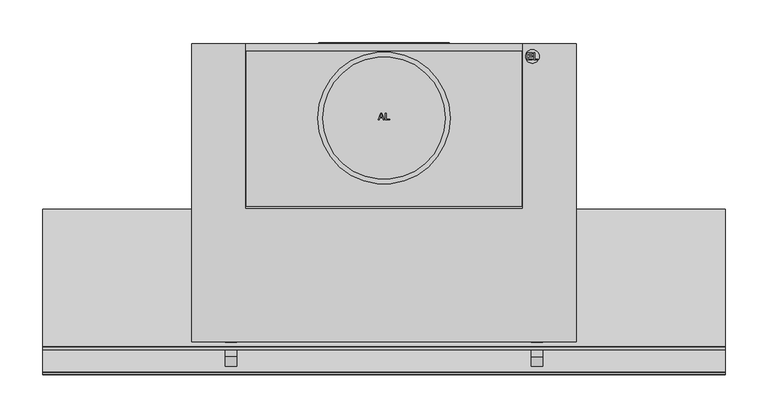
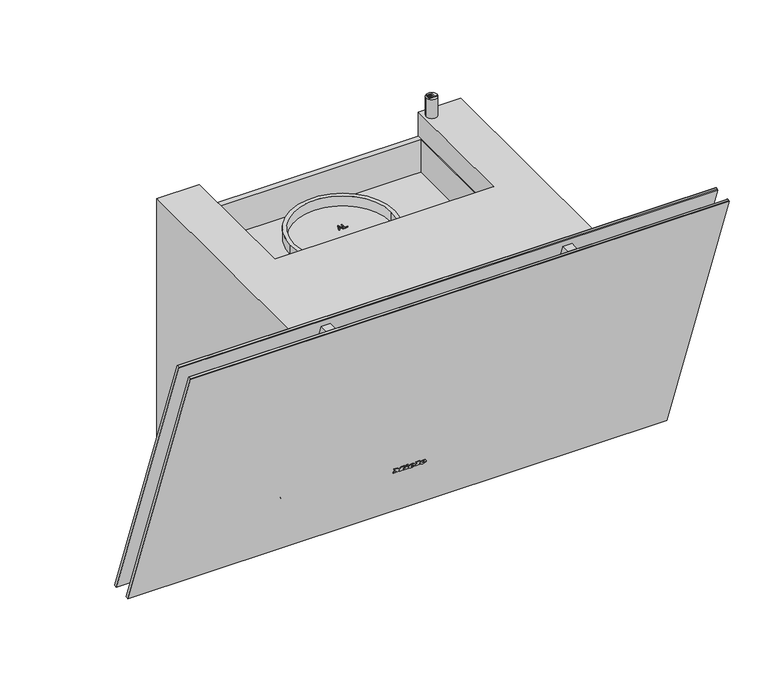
"""IFC4 building model written with IfcOpenShell, lengths in millimetres: proxy geometry, 12559390_NER_DAH2860_OBSW : 28H2860B_NER_12559390_DAH2860_OBSW."""

import ifcopenshell
import ifcopenshell.guid

model = None  # the IFC model being written
_history = None  # IfcOwnerHistory: only IFC2X3 demands one
_inside = {}  # id of a spatial element -> (the spatial element, [elements in it])
_under = {}  # id of a project, library or spatial element -> (it, [spatial elements below it])
_declared = {}  # id of a project -> (the project, [libraries it declares])
_typed = {}  # id of a type object -> (the type object, [elements of that type])
_made_of = {}  # id of a material, layer set ... -> (it, [elements and type objects made of it])


def new_model(schema):
    """Start an empty IFC model of exactly this schema.

    Asked for "IFC4X3", IfcOpenShell would pick the latest addendum, in which some entities
    have other attributes; the version numbers below select the first issue.
    IFC2X3 requires an IfcOwnerHistory on every rooted entity: one is made here for all.
    """
    global model, _history
    if schema == "IFC4X3":
        model = ifcopenshell.file(schema_version=(4, 3, 0, 0))
    else:
        model = ifcopenshell.file(schema=schema)
    _inside.clear()
    _under.clear()
    _declared.clear()
    _typed.clear()
    _made_of.clear()
    _history = None
    if model.schema == "IFC2X3":
        org = make("IfcOrganization", Name="unknown")
        user = make(
            "IfcPersonAndOrganization",
            ThePerson=make("IfcPerson", FamilyName="unknown"),
            TheOrganization=org,
        )
        app = make(
            "IfcApplication",
            ApplicationDeveloper=org,
            Version="unknown",
            ApplicationFullName="unknown",
            ApplicationIdentifier="unknown",
        )
        _history = make(
            "IfcOwnerHistory",
            OwningUser=user,
            OwningApplication=app,
            ChangeAction="ADDED",
            CreationDate=0,
        )
    return model


def make(cls, **values):
    """One entity of the class cls with the attributes given. An attribute that is None is left unset."""
    return model.create_entity(
        cls, **{name: value for name, value in values.items() if value is not None}
    )


def rooted(cls, **values):
    """An entity with a GlobalId (a new one), such as an element, a storey or a relation."""
    return make(cls, GlobalId=ifcopenshell.guid.new(), OwnerHistory=_history, **values)


def si_unit(unit_type, name, prefix=None):
    """IfcSIUnit, for example si_unit("LENGTHUNIT", "METRE", prefix="MILLI")."""
    return make("IfcSIUnit", UnitType=unit_type, Prefix=prefix, Name=name)


def assignment(units):
    """IfcUnitAssignment: the units of a project."""
    return None if units is None else make("IfcUnitAssignment", Units=units)


def point(xyz):
    """IfcCartesianPoint."""
    return None if xyz is None else make("IfcCartesianPoint", Coordinates=xyz)


def direction(xyz):
    """IfcDirection."""
    return None if xyz is None else make("IfcDirection", DirectionRatios=xyz)


def frame(location, z_axis=None, x_axis=None):
    """IfcAxis2Placement3D, a coordinate frame: its origin and axes. An axis left out is left unset."""
    return make(
        "IfcAxis2Placement3D",
        Location=point(location),
        Axis=direction(z_axis),
        RefDirection=direction(x_axis),
    )


def frame_2d(location, x_axis=None):
    """IfcAxis2Placement2D, a coordinate frame in the plane: its origin and x axis."""
    return make(
        "IfcAxis2Placement2D", Location=point(location), RefDirection=direction(x_axis)
    )


def origin():
    """The frame at (0, 0, 0) with its axes left unset."""
    return frame((0.0, 0.0, 0.0))


def origin_with_axes():
    """The frame at (0, 0, 0) with the z axis (0, 0, 1) and the x axis (1, 0, 0) written out."""
    return frame((0.0, 0.0, 0.0), z_axis=(0.0, 0.0, 1.0), x_axis=(1.0, 0.0, 0.0))


def place(relative_to, where):
    """IfcLocalPlacement: puts the frame where relative to a parent placement (None: the world)."""
    return make(
        "IfcLocalPlacement", PlacementRelTo=relative_to, RelativePlacement=where
    )


def context(
    kind, dimensions, precision=None, world=None, true_north=None, identifier=None
):
    """IfcGeometricRepresentationContext, for example the 3D "Model" context."""
    return make(
        "IfcGeometricRepresentationContext",
        ContextIdentifier=identifier,
        ContextType=kind,
        CoordinateSpaceDimension=dimensions,
        Precision=precision,
        WorldCoordinateSystem=world,
        TrueNorth=true_north,
    )


def project(units=None, contexts=None):
    """IfcProject with its units and contexts."""
    return rooted(
        "IfcProject",
        Name="project",
        RepresentationContexts=contexts,
        UnitsInContext=assignment(units),
    )


def spatial(cls, under=None, at=None, **own):
    """A site, building, storey or space (cls), placed at a placement, below another one or the project."""
    s = rooted(cls, ObjectPlacement=at, **own)
    if under is not None:
        _under.setdefault(under.id(), (under, []))[1].append(s)
    return s


def polyline(points):
    """IfcPolyline through the points."""
    return make("IfcPolyline", Points=[point(p) for p in points])


def circle_curve(where, radius):
    """IfcCircle in the frame where."""
    return make("IfcCircle", Position=where, Radius=radius)


def ellipse_curve(where, semi_axis1, semi_axis2):
    """IfcEllipse in the frame where."""
    return make(
        "IfcEllipse", Position=where, SemiAxis1=semi_axis1, SemiAxis2=semi_axis2
    )


def trimmed(basis, trim1, trim2, sense, master):
    """IfcTrimmedCurve: the piece of a basis curve between two trims."""
    return make(
        "IfcTrimmedCurve",
        BasisCurve=basis,
        Trim1=trim1,
        Trim2=trim2,
        SenseAgreement=sense,
        MasterRepresentation=master,
    )


def segment(curve, same_sense, transition):
    """IfcCompositeCurveSegment."""
    return make(
        "IfcCompositeCurveSegment",
        Transition=transition,
        SameSense=same_sense,
        ParentCurve=curve,
    )


def composite_curve(segments, self_intersect=None):
    """IfcCompositeCurve: segments joined end to end."""
    return make("IfcCompositeCurve", Segments=segments, SelfIntersect=self_intersect)


def outline(outer, holes=None, kind="AREA"):
    """IfcArbitraryClosedProfileDef: a profile drawn as a closed curve; with holes, ...WithVoids."""
    if holes is None:
        return make("IfcArbitraryClosedProfileDef", ProfileType=kind, OuterCurve=outer)
    return make(
        "IfcArbitraryProfileDefWithVoids",
        ProfileType=kind,
        OuterCurve=outer,
        InnerCurves=holes,
    )


def extrude(swept, where, along, depth):
    """IfcExtrudedAreaSolid: the profile swept, set in the frame where, extruded along a direction by depth."""
    return make(
        "IfcExtrudedAreaSolid",
        SweptArea=swept,
        Position=where,
        ExtrudedDirection=direction(along),
        Depth=depth,
    )


def faces_of(points, faces, orient=None, outer=None):
    """IfcFace entities. A face is a list of loops; a loop is a list of indices into points, from 0.

    orient and outer hold one flag for each loop. By default every Orientation is true, the
    first loop of a face is its IfcFaceOuterBound and the others are IfcFaceBound.
    """
    made = []
    for i, loops in enumerate(faces):
        bounds = []
        for j, loop in enumerate(loops):
            is_outer = j == 0 if outer is None else outer[i][j]
            bounds.append(
                make(
                    "IfcFaceOuterBound" if is_outer else "IfcFaceBound",
                    Bound=make("IfcPolyLoop", Polygon=[points[k] for k in loop]),
                    Orientation=True if orient is None else orient[i][j],
                )
            )
        made.append(make("IfcFace", Bounds=bounds))
    return made


def faceted_brep(points, faces, orient=None, outer=None, voids=None):
    """IfcFacetedBrep: a solid bounded by flat faces; with voids (closed shells), ...WithVoids."""
    shared = [point(p) for p in points]
    hull = make("IfcClosedShell", CfsFaces=faces_of(shared, faces, orient, outer))
    if voids is None:
        return make("IfcFacetedBrep", Outer=hull)
    return make(
        "IfcFacetedBrepWithVoids",
        Outer=hull,
        Voids=[
            make(cls, CfsFaces=faces_of(shared, fs, o, b)) for cls, fs, o, b in voids
        ],
    )


def shape(context_of_items, identifier, shape_type, items):
    """IfcShapeRepresentation: the items that make up one representation, for example the "Body"."""
    return make(
        "IfcShapeRepresentation",
        ContextOfItems=context_of_items,
        RepresentationIdentifier=identifier,
        RepresentationType=shape_type,
        Items=items,
    )


def source(mapping_origin, context_of_items, identifier, shape_type, items):
    """IfcRepresentationMap: a shape defined once, which mapped items show again and again."""
    return make(
        "IfcRepresentationMap",
        MappingOrigin=mapping_origin,
        MappedRepresentation=shape(context_of_items, identifier, shape_type, items),
    )


def transform(
    local_origin,
    x_axis=None,
    y_axis=None,
    z_axis=None,
    scale=None,
    scale2=None,
    scale3=None,
    uniform=True,
):
    """IfcCartesianTransformationOperator3D, or its non-uniform kind. x_axis, y_axis, z_axis: its Axis1, 2, 3."""
    if uniform:
        return make(
            "IfcCartesianTransformationOperator3D",
            Axis1=direction(x_axis),
            Axis2=direction(y_axis),
            LocalOrigin=point(local_origin),
            Scale=scale,
            Axis3=direction(z_axis),
        )
    return make(
        "IfcCartesianTransformationOperator3DnonUniform",
        Axis1=direction(x_axis),
        Axis2=direction(y_axis),
        LocalOrigin=point(local_origin),
        Scale=scale,
        Axis3=direction(z_axis),
        Scale2=scale2,
        Scale3=scale3,
    )


def mapped(mapping_source, mapping_target):
    """IfcMappedItem: shows the shape of a source again, moved by a transform."""
    return make(
        "IfcMappedItem", MappingSource=mapping_source, MappingTarget=mapping_target
    )


def made_of(thing, what):
    """Note that an element or type object is made of a material, layer set ...; save() writes the relation."""
    if what is not None:
        _made_of.setdefault(what.id(), (what, []))[1].append(thing)
    return thing


def element(
    cls,
    number,
    at=None,
    inside=None,
    cuts=None,
    type_object=None,
    material=None,
    context=None,
    identifier="Body",
    shape_type=None,
    held_by="IfcProductDefinitionShape",
    body=None,
    shapes=None,
    **own,
):
    """One element of the class cls, such as IfcWall. Its Tag is "e" and its number.

    at: its placement. inside: the storey or other place that contains it. cuts: it is an
    opening in that element (IfcRelVoidsElement). A single representation is given by context,
    identifier, shape_type and body (its items); several are given by shapes. held_by: the class
    of the entity that holds the representations. save() writes the other relations.
    """
    e = rooted(cls, Tag="e%d" % number, ObjectPlacement=at, **own)
    if body is not None:
        shapes = [shape(context, identifier, shape_type, body)]
    if shapes is not None:
        e.Representation = make(held_by, Representations=shapes)
    if inside is not None:
        _inside.setdefault(inside.id(), (inside, []))[1].append(e)
    if cuts is not None:
        rooted(
            "IfcRelVoidsElement", RelatingBuildingElement=cuts, RelatedOpeningElement=e
        )
    if type_object is not None:
        _typed.setdefault(type_object.id(), (type_object, []))[1].append(e)
    return made_of(e, material)


def aggregate(whole, parts):
    """IfcRelAggregates: a whole, such as a stair, and the parts it consists of."""
    return rooted("IfcRelAggregates", RelatingObject=whole, RelatedObjects=parts)


def save(model, path):
    """Write the relations noted so far, then the file.

    IfcRelAggregates (storeys below a building ...), IfcRelContainedInSpatialStructure (elements
    in a storey), IfcRelDefinesByType, IfcRelAssociatesMaterial and IfcRelDeclares: one each for
    every whole, place, type object, material and project.
    """
    for whole, parts in _under.values():
        aggregate(whole, parts)
    for where, things in _inside.values():
        rooted(
            "IfcRelContainedInSpatialStructure",
            RelatedElements=things,
            RelatingStructure=where,
        )
    for kind, things in _typed.values():
        rooted("IfcRelDefinesByType", RelatedObjects=things, RelatingType=kind)
    for what, things in _made_of.values():
        rooted("IfcRelAssociatesMaterial", RelatedObjects=things, RelatingMaterial=what)
    for by, libraries in _declared.values():
        rooted("IfcRelDeclares", RelatingContext=by, RelatedDefinitions=libraries)
    model.write(path)


def plane_surface(at):
    """IfcPlane: the flat surface through the origin of the frame at, square to its z axis."""
    return make("IfcPlane", Position=at)


def cylinder_surface(at, radius):
    """IfcCylindricalSurface: all points at the distance radius from the z axis of the frame at."""
    return make("IfcCylindricalSurface", Position=at, Radius=radius)


def revolved_surface(curve, axis_point, axis_direction):
    """IfcSurfaceOfRevolution: the curve turned about the line through axis_point along axis_direction."""
    return make(
        "IfcSurfaceOfRevolution",
        SweptCurve=make("IfcArbitraryOpenProfileDef", ProfileType="CURVE", Curve=curve),
        AxisPosition=make("IfcAxis1Placement", Location=point(axis_point), Axis=direction(axis_direction)),
    )


def extruded_surface(curve, direction_of_extrusion, depth):
    """IfcSurfaceOfLinearExtrusion: the curve pushed along a direction by depth."""
    return make(
        "IfcSurfaceOfLinearExtrusion",
        SweptCurve=make("IfcArbitraryOpenProfileDef", ProfileType="CURVE", Curve=curve),
        ExtrudedDirection=direction(direction_of_extrusion),
        Depth=depth,
    )


def advanced_brep(points, edges, surfaces, faces):
    """IfcAdvancedBrep: a solid bounded by faces that lie on surfaces and meet in shared edges.

    An edge is (start, end): straight between two places in points (the first is 0);
    or (start, end, curve); or (start, end, curve, False) where it runs against its curve.
    A face is (place in surfaces, loops), or (place, loops, False) where it looks against
    its surface's normal. A loop lists edges by number (the first is 1), with a minus sign
    where the edge is run from its end to its start. The first loop is the outer one.
    """
    corners = [point(p) for p in points]
    vertices = [make("IfcVertexPoint", VertexGeometry=c) for c in corners]
    made = []
    for start, end, *more in edges:
        made.append(
            make(
                "IfcEdgeCurve",
                EdgeStart=vertices[start],
                EdgeEnd=vertices[end],
                EdgeGeometry=more[0] if more else make("IfcPolyline", Points=[corners[start], corners[end]]),
                SameSense=more[1] if len(more) > 1 else True,
            )
        )
    hull = []
    for where, loops, *sense in faces:
        bounds = []
        for j, loop in enumerate(loops):
            ring = [make("IfcOrientedEdge", EdgeElement=made[abs(k) - 1], Orientation=k > 0) for k in loop]
            bounds.append(
                make(
                    "IfcFaceOuterBound" if j == 0 else "IfcFaceBound",
                    Bound=make("IfcEdgeLoop", EdgeList=ring),
                    Orientation=True,
                )
            )
        hull.append(make("IfcAdvancedFace", Bounds=bounds, FaceSurface=surfaces[where], SameSense=sense[0] if sense else True))
    return make("IfcAdvancedBrep", Outer=make("IfcClosedShell", CfsFaces=hull))


def specialty_equipment_d95b39ff(model_context):
    return source(origin(), model_context, "Body", "SolidModel", [
        extrude(outline(polyline([(0.0, 0.0), (0.968, 0.0), (0.968, 5.352), (0.0, 5.352), (0.0, 6.696), (3.52, 6.696), (3.52, 5.352), (2.56, 5.352), (2.56, 1.9488753), (6.136, 6.696), (9.728, 1.8807777), (9.728, 5.352), (8.744, 5.352), (8.744, 6.696), (15.128, 6.696), (15.128, 5.352), (14.112, 5.352), (14.112, 0.0), (15.128, 0.0), (15.128, -1.304), (10.256, -1.304), (7.92, 1.696), (5.576, -1.304), (0.0, -1.304), (0.0, 0.0)])), frame((-24.271984, -261.1380975, 82.2921818), z_axis=(0.0, 0.9396926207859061, 0.34202014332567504), x_axis=(1.0, 0.0, 0.0)), (0.0, 0.0, 1.0), 1.0),
        extrude(outline(polyline([(0.0, 0.0), (0.96, 0.0), (0.96, 5.352), (0.0, 5.352), (0.0, 6.696), (6.488, 6.696), (6.488, 5.352), (5.504, 5.352), (5.504, -1.304), (0.0, -1.304), (0.0, 0.0)])), frame((8.192016, -261.1380975, 82.2921818), z_axis=(0.0, 0.9396926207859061, 0.34202014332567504), x_axis=(1.0, 0.0, 0.0)), (0.0, 0.0, 1.0), 1.0),
        extrude(outline(polyline([(0.0, 0.0), (1.4315306, 0.0), (1.4390414, -2.9920869), (0.0109086, -2.9993294), (0.0, 0.0)])), frame((-6.351984, -261.4226582, 83.074006), z_axis=(0.0, 0.9396926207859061, 0.342020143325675), x_axis=(0.42472021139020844, 0.30963927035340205, -0.8507269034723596)), (0.0, 0.0, 1.0), 1.0),
        extrude(outline(polyline([(0.4933907, 2.4141097), (1.7898156, 3.022309), (2.1941493, 2.1604399), (5.1636141, 3.5535222), (4.7592805, 4.4153913), (5.9760369, 4.9862153), (8.6568708, -0.728194), (7.4401145, -1.299018), (7.0459741, -0.4588767), (2.7800843, -2.4601583), (0.4933907, 2.4141097)])), frame((-6.351984, -261.4226582, 83.074006), z_axis=(0.0, 0.9396926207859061, 0.342020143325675), x_axis=(0.42472021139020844, 0.30963927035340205, -0.8507269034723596)), (0.0, 0.0, 1.0), 1.0),
        advanced_brep(
        [(2.392016, -259.4964008, 77.7816572), (2.392016, -259.7727531, 78.5409288), (7.744016, -259.7727531, 78.5409288), (-1.567984, -259.7727531, 78.5409288), (0.632016, -258.8479306, 76.0), (7.608016, -259.4964008, 77.7816572), (5.192016, -259.4964008, 77.7816572), (3.288016, -259.1899507, 76.9396926), (2.392016, -260.1229817, 79.5031741), (2.392016, -260.4212233, 80.3225861), (3.760016, -260.4212233, 80.3225861), (3.760016, -260.1229817, 79.5031741), (2.392016, -258.5567082, 78.1236774), (3.288016, -258.2502581, 77.2817128), (5.192016, -258.5567082, 78.1236774), (7.608016, -258.5567082, 78.1236774), (0.632016, -257.908238, 76.3420201), (-1.567984, -258.8330604, 78.882949), (7.744016, -258.8330604, 78.882949), (2.392016, -258.8330604, 78.882949), (2.392016, -259.1832891, 79.8451942), (3.760016, -259.1832891, 79.8451942), (3.760016, -259.4815306, 80.6646062), (2.392016, -259.4815306, 80.6646062)],
        [
            (0, 1),
            (1, 2),
            (2, 3, ellipse_curve(frame((3.088016, -259.7727531, 78.5409288), z_axis=(0.0, -0.9396926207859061, -0.34202014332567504), x_axis=(-1.0, 0.0, 0.0)), 4.656, 3.848)),
            (3, 4, circle_curve(frame((1.5280596, -259.8657825, 78.7965252), z_axis=(0.0, -0.9396926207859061, -0.34202014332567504), x_axis=(0.0, 0.34202014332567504, -0.9396926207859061)), 3.1079688)),
            (4, 5, circle_curve(frame((2.9948096, -260.5881291, 80.7811561), z_axis=(0.0, -0.9396926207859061, -0.34202014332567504), x_axis=(0.0, 0.34202014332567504, -0.9396926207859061)), 5.6098607)),
            (5, 6),
            (6, 7, circle_curve(frame((3.6790748, -259.7508638, 78.4807885), z_axis=(0.0, 0.9396926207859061, 0.34202014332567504), x_axis=(0.0, 0.34202014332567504, -0.9396926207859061)), 1.6859795)),
            (7, 0, circle_curve(frame((3.288016, -259.4964008, 77.7816572), z_axis=(0.0, 0.9396926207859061, 0.34202014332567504), x_axis=(0.0, 0.34202014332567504, -0.9396926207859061)), 0.896)),
            (8, 9),
            (9, 10, circle_curve(frame((3.076016, -260.4212233, 80.3225861), z_axis=(0.0, 0.9396926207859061, 0.34202014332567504), x_axis=(0.0, 0.34202014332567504, -0.9396926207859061)), 0.684)),
            (10, 11),
            (11, 8),
            (12, 13, circle_curve(frame((3.288016, -258.5567082, 78.1236774), z_axis=(0.0, -0.9396926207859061, -0.34202014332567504), x_axis=(0.0, 0.34202014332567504, -0.9396926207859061)), 0.896)),
            (13, 14, circle_curve(frame((3.6790748, -258.8111712, 78.8228087), z_axis=(0.0, -0.9396926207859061, -0.34202014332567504), x_axis=(0.0, 0.34202014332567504, -0.9396926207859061)), 1.6859795)),
            (14, 15),
            (15, 16, circle_curve(frame((2.9948096, -259.6484365, 81.1231762), z_axis=(0.0, 0.9396926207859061, 0.34202014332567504), x_axis=(0.0, 0.34202014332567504, -0.9396926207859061)), 5.6098607)),
            (16, 17, circle_curve(frame((1.5280596, -258.9260899, 79.1385454), z_axis=(0.0, 0.9396926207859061, 0.34202014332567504), x_axis=(0.0, 0.34202014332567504, -0.9396926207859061)), 3.1079688)),
            (17, 18, ellipse_curve(frame((3.088016, -258.8330604, 78.882949), z_axis=(0.0, 0.9396926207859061, 0.34202014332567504), x_axis=(-1.0, 0.0, 0.0)), 4.656, 3.848)),
            (18, 19),
            (19, 12),
            (20, 21),
            (21, 22),
            (22, 23, circle_curve(frame((3.076016, -259.4815306, 80.6646062), z_axis=(0.0, -0.9396926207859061, -0.34202014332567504), x_axis=(0.0, 0.34202014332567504, -0.9396926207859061)), 0.684)),
            (23, 20),
            (0, 12),
            (19, 1),
            (18, 2),
            (5, 15),
            (14, 6),
            (17, 3),
            (13, 7),
            (16, 4),
            (8, 20),
            (23, 9),
            (22, 10),
            (21, 11),
        ],
        [
            plane_surface(frame((2.392016, -259.7727531, 78.5409288), z_axis=(0.0, -0.9396926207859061, -0.34202014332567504), x_axis=(0.0, -0.34202014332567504, 0.9396926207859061))),
            plane_surface(frame((2.392016, -258.8330604, 78.882949), z_axis=(0.0, 0.9396926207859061, 0.34202014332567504), x_axis=(0.0, 0.34202014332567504, -0.9396926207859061))),
            plane_surface(frame((2.392016, -259.4964008, 77.7816572), z_axis=(1.0, 0.0, 0.0), x_axis=(0.0, 0.9396926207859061, 0.34202014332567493))),
            plane_surface(frame((2.392016, -259.7727531, 78.5409288), z_axis=(0.0, 0.34202014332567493, -0.9396926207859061), x_axis=(0.0, 0.9396926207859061, 0.34202014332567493))),
            plane_surface(frame((7.608016, -259.4964008, 77.7816572), z_axis=(0.0, -0.34202014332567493, 0.9396926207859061), x_axis=(0.0, 0.9396926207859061, 0.34202014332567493))),
            extruded_surface(trimmed(ellipse_curve(frame((3.088016, -257.8933678, 79.2249691), z_axis=(0.0, -0.9396926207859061, -0.34202014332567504), x_axis=(-1.0, 0.0, 0.0)), 4.656, 3.848), [point((7.744016, -257.8933678, 79.2249691))], [point((-1.567984, -257.8933678, 79.2249691))], True, "CARTESIAN"), (0.0, -0.9396926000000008, -0.34202009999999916), 0.9999999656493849),
            revolved_surface(polyline([(3.6790748, -258.2345321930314, 77.23850622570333), (3.6790748, -259.1742248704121, 76.89648606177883)]), (3.6790748, -258.8111712, 78.8228087), (0.0, 0.9396926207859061, 0.34202014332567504)),
            revolved_surface(polyline([(3.288016, -258.25025810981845, 77.28171282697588), (3.288016, -259.1899507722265, 76.93969266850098)]), (3.288016, -258.5567082, 78.1236774), (0.0, 0.9396926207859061, 0.34202014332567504)),
            cylinder_surface(frame((1.5280596, -258.9260899, 79.1385454), z_axis=(0.0, -0.9396926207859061, -0.34202014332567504), x_axis=(0.0, 0.34202014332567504, -0.9396926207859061)), 3.1079688),
            cylinder_surface(frame((2.9948096, -259.6484365, 81.1231762), z_axis=(0.0, -0.9396926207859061, -0.34202014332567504), x_axis=(0.0, 0.34202014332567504, -0.9396926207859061)), 5.6098607),
            plane_surface(frame((2.392016, -260.1229817, 79.5031741), z_axis=(1.0, 0.0, 0.0), x_axis=(0.0, 0.9396926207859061, 0.34202014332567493))),
            revolved_surface(polyline([(3.076016, -259.2475888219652, 80.02185644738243), (3.076016, -260.1872814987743, 79.67983628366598)]), (3.076016, -259.4815306, 80.6646062), (0.0, 0.9396926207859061, 0.34202014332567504)),
            plane_surface(frame((3.760016, -260.4212233, 80.3225861), z_axis=(-1.0, 0.0, 0.0), x_axis=(0.0, 0.9396926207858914, 0.3420201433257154))),
            plane_surface(frame((3.760016, -260.1229817, 79.5031741), z_axis=(0.0, -0.34202014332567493, 0.9396926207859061), x_axis=(0.0, 0.9396926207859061, 0.34202014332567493))),
        ],
        [
            (0, [[1, 2, 3, 4, 5, 6, 7, 8], [9, 10, 11, 12]]),
            (1, [[13, 14, 15, 16, 17, 18, 19, 20], [21, 22, 23, 24]]),
            (2, [[-1, 25, -20, 26]]),
            (3, [[-2, -26, -19, 27]]),
            (4, [[-6, 28, -15, 29]]),
            (5, [[-3, -27, -18, 30]]),
            (6, [[-7, -29, -14, 31]]),
            (7, [[-8, -31, -13, -25]]),
            (8, [[-4, -30, -17, 32]]),
            (9, [[-5, -32, -16, -28]]),
            (10, [[-9, 33, -24, 34]]),
            (11, [[-10, -34, -23, 35]]),
            (12, [[-11, -35, -22, 36]]),
            (13, [[-12, -36, -21, -33]]),
        ],
    ),
        advanced_brep(
        [(19.088016, -259.4964008, 77.7816572), (19.088016, -259.7727531, 78.5409288), (24.440016, -259.7727531, 78.5409288), (15.128016, -259.7727531, 78.5409288), (17.328016, -258.8479306, 76.0), (24.304016, -259.4964008, 77.7816572), (21.888016, -259.4964008, 77.7816572), (19.984016, -259.1899507, 76.9396926), (19.088016, -260.1229817, 79.5031741), (19.088016, -260.4212233, 80.3225861), (20.456016, -260.4212233, 80.3225861), (20.456016, -260.1229817, 79.5031741), (19.088016, -258.5567082, 78.1236774), (19.984016, -258.2502581, 77.2817128), (21.888016, -258.5567082, 78.1236774), (24.304016, -258.5567082, 78.1236774), (17.328016, -257.908238, 76.3420201), (15.128016, -258.8330604, 78.882949), (24.440016, -258.8330604, 78.882949), (19.088016, -258.8330604, 78.882949), (19.088016, -259.1832891, 79.8451942), (20.456016, -259.1832891, 79.8451942), (20.456016, -259.4815306, 80.6646062), (19.088016, -259.4815306, 80.6646062)],
        [
            (0, 1),
            (1, 2),
            (2, 3, ellipse_curve(frame((19.784016, -259.7727531, 78.5409288), z_axis=(0.0, -0.9396926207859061, -0.34202014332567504), x_axis=(-1.0, 0.0, 0.0)), 4.656, 3.848)),
            (3, 4, circle_curve(frame((18.2240596, -259.8657825, 78.7965252), z_axis=(0.0, -0.9396926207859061, -0.34202014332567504), x_axis=(0.0, 0.34202014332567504, -0.9396926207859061)), 3.1079688)),
            (4, 5, circle_curve(frame((19.6908096, -260.5881291, 80.7811561), z_axis=(0.0, -0.9396926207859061, -0.34202014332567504), x_axis=(0.0, 0.34202014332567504, -0.9396926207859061)), 5.6098607)),
            (5, 6),
            (6, 7, circle_curve(frame((20.3750748, -259.7508638, 78.4807885), z_axis=(0.0, 0.9396926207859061, 0.34202014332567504), x_axis=(0.0, 0.34202014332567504, -0.9396926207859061)), 1.6859795)),
            (7, 0, circle_curve(frame((19.984016, -259.4964008, 77.7816572), z_axis=(0.0, 0.9396926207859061, 0.34202014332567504), x_axis=(0.0, 0.34202014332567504, -0.9396926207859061)), 0.896)),
            (8, 9),
            (9, 10, circle_curve(frame((19.772016, -260.4212233, 80.3225861), z_axis=(0.0, 0.9396926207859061, 0.34202014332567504), x_axis=(0.0, 0.34202014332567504, -0.9396926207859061)), 0.684)),
            (10, 11),
            (11, 8),
            (12, 13, circle_curve(frame((19.984016, -258.5567082, 78.1236774), z_axis=(0.0, -0.9396926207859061, -0.34202014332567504), x_axis=(0.0, 0.34202014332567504, -0.9396926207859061)), 0.896)),
            (13, 14, circle_curve(frame((20.3750748, -258.8111712, 78.8228087), z_axis=(0.0, -0.9396926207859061, -0.34202014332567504), x_axis=(0.0, 0.34202014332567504, -0.9396926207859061)), 1.6859795)),
            (14, 15),
            (15, 16, circle_curve(frame((19.6908096, -259.6484365, 81.1231762), z_axis=(0.0, 0.9396926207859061, 0.34202014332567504), x_axis=(0.0, 0.34202014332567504, -0.9396926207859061)), 5.6098607)),
            (16, 17, circle_curve(frame((18.2240596, -258.9260899, 79.1385454), z_axis=(0.0, 0.9396926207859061, 0.34202014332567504), x_axis=(0.0, 0.34202014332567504, -0.9396926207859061)), 3.1079688)),
            (17, 18, ellipse_curve(frame((19.784016, -258.8330604, 78.882949), z_axis=(0.0, 0.9396926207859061, 0.34202014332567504), x_axis=(-1.0, 0.0, 0.0)), 4.656, 3.848)),
            (18, 19),
            (19, 12),
            (20, 21),
            (21, 22),
            (22, 23, circle_curve(frame((19.772016, -259.4815306, 80.6646062), z_axis=(0.0, -0.9396926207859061, -0.34202014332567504), x_axis=(0.0, 0.34202014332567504, -0.9396926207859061)), 0.684)),
            (23, 20),
            (0, 12),
            (19, 1),
            (18, 2),
            (5, 15),
            (14, 6),
            (17, 3),
            (13, 7),
            (16, 4),
            (8, 20),
            (23, 9),
            (22, 10),
            (21, 11),
        ],
        [
            plane_surface(frame((19.088016, -259.7727531, 78.5409288), z_axis=(0.0, -0.9396926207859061, -0.34202014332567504), x_axis=(0.0, -0.34202014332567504, 0.9396926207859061))),
            plane_surface(frame((19.088016, -258.8330604, 78.882949), z_axis=(0.0, 0.9396926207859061, 0.34202014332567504), x_axis=(0.0, 0.34202014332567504, -0.9396926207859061))),
            plane_surface(frame((19.088016, -259.4964008, 77.7816572), z_axis=(1.0, 0.0, 0.0), x_axis=(0.0, 0.9396926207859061, 0.34202014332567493))),
            plane_surface(frame((19.088016, -259.7727531, 78.5409288), z_axis=(0.0, 0.34202014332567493, -0.9396926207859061), x_axis=(0.0, 0.9396926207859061, 0.34202014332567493))),
            plane_surface(frame((24.304016, -259.4964008, 77.7816572), z_axis=(0.0, -0.34202014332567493, 0.9396926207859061), x_axis=(0.0, 0.9396926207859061, 0.34202014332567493))),
            extruded_surface(trimmed(ellipse_curve(frame((19.784016, -257.8933678, 79.2249691), z_axis=(0.0, -0.9396926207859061, -0.34202014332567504), x_axis=(-1.0, 0.0, 0.0)), 4.656, 3.848), [point((24.440016, -257.8933678, 79.2249691))], [point((15.128016, -257.8933678, 79.2249691))], True, "CARTESIAN"), (0.0, -0.9396926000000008, -0.34202009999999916), 0.9999999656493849),
            revolved_surface(polyline([(20.3750748, -258.2345321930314, 77.23850622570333), (20.3750748, -259.1742248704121, 76.89648606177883)]), (20.3750748, -258.8111712, 78.8228087), (0.0, 0.9396926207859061, 0.34202014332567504)),
            revolved_surface(polyline([(19.984016, -258.25025810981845, 77.28171282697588), (19.984016, -259.1899507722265, 76.93969266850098)]), (19.984016, -258.5567082, 78.1236774), (0.0, 0.9396926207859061, 0.34202014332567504)),
            cylinder_surface(frame((18.2240596, -258.9260899, 79.1385454), z_axis=(0.0, -0.9396926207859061, -0.34202014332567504), x_axis=(0.0, 0.34202014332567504, -0.9396926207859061)), 3.1079688),
            cylinder_surface(frame((19.6908096, -259.6484365, 81.1231762), z_axis=(0.0, -0.9396926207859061, -0.34202014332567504), x_axis=(0.0, 0.34202014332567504, -0.9396926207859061)), 5.6098607),
            plane_surface(frame((19.088016, -260.1229817, 79.5031741), z_axis=(1.0, 0.0, 0.0), x_axis=(0.0, 0.9396926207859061, 0.34202014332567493))),
            revolved_surface(polyline([(19.772016, -259.2475888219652, 80.02185644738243), (19.772016, -260.1872814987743, 79.67983628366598)]), (19.772016, -259.4815306, 80.6646062), (0.0, 0.9396926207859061, 0.34202014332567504)),
            plane_surface(frame((20.456016, -260.4212233, 80.3225861), z_axis=(-1.0, 0.0, 0.0), x_axis=(0.0, 0.9396926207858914, 0.3420201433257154))),
            plane_surface(frame((20.456016, -260.1229817, 79.5031741), z_axis=(0.0, -0.34202014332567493, 0.9396926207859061), x_axis=(0.0, 0.9396926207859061, 0.34202014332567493))),
        ],
        [
            (0, [[1, 2, 3, 4, 5, 6, 7, 8], [9, 10, 11, 12]]),
            (1, [[13, 14, 15, 16, 17, 18, 19, 20], [21, 22, 23, 24]]),
            (2, [[-1, 25, -20, 26]]),
            (3, [[-2, -26, -19, 27]]),
            (4, [[-6, 28, -15, 29]]),
            (5, [[-3, -27, -18, 30]]),
            (6, [[-7, -29, -14, 31]]),
            (7, [[-8, -31, -13, -25]]),
            (8, [[-4, -30, -17, 32]]),
            (9, [[-5, -32, -16, -28]]),
            (10, [[-9, 33, -24, 34]]),
            (11, [[-10, -34, -23, 35]]),
            (12, [[-11, -35, -22, 36]]),
            (13, [[-12, -36, -21, -33]]),
        ],
    ),
        advanced_brep(
        [(-198.5, -231.2422284, 80.5173231), (-198.5, -240.9843308, 107.2835295), (-198.5, -235.8312261, 109.4708926), (-198.5, -225.8887113, 82.1540576), (-198.5, -250.514978, 76.8365225), (-198.5, -258.1140866, 97.7149017), (-198.5, -258.4754112, 96.7430581), (-198.5, -251.4164577, 77.3487429), (-198.5, -254.9459345, 87.0459005), (-198.5, -230.9198317, 95.7906867)],
        [
            (0, 1, circle_curve(frame((-198.5, -236.1132796, 93.9004263), z_axis=(0.0, 0.9396926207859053, 0.3420201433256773), x_axis=(0.0, -0.3420201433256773, 0.9396926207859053)), 14.2420009)),
            (1, 2),
            (2, 3, circle_curve(frame((-198.5, -230.8599687, 95.8124751), z_axis=(0.0, -0.9396926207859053, -0.3420201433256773), x_axis=(0.0, -0.3420201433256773, 0.9396926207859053)), 14.5349844)),
            (3, 0),
            (4, 5, circle_curve(frame((-198.5, -254.3145323, 87.2757121), z_axis=(0.0, 0.9396926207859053, 0.3420201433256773), x_axis=(0.0, -0.3420201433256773, 0.9396926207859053)), 11.1091535)),
            (5, 1),
            (0, 4),
            (6, 7, circle_curve(frame((-198.5, -254.9459345, 87.0459005), z_axis=(0.0, 0.9396926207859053, 0.3420201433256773), x_axis=(0.0, -0.3420201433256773, 0.9396926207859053)), 10.3194996)),
            (7, 4),
            (4, 5, circle_curve(frame((-198.5, -254.3145323, 87.2757121), z_axis=(0.0, -0.9396926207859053, -0.3420201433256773), x_axis=(0.0, -0.3420201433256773, 0.9396926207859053)), 11.1091535)),
            (5, 6),
            (8, 7),
            (6, 8),
            (2, 9),
            (9, 3),
            (2, 3, circle_curve(frame((-198.5, -230.9198317, 95.7906867), z_axis=(0.0, 0.9396926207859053, 0.3420201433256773), x_axis=(0.0, -0.3420201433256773, 0.9396926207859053)), 14.535124)),
            (1, 0, circle_curve(frame((-198.5, -236.1132796, 93.9004263), z_axis=(0.0, 0.9396926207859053, 0.3420201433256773), x_axis=(0.0, -0.3420201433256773, 0.9396926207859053)), 14.2420009)),
            (7, 6, circle_curve(frame((-198.5, -254.9459345, 87.0459005), z_axis=(0.0, 0.9396926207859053, 0.3420201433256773), x_axis=(0.0, -0.3420201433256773, 0.9396926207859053)), 10.3194996)),
        ],
        [
            revolved_surface(polyline([(-198.5, -235.8312261, 109.4708926), (-198.5, -240.9843308, 107.2835295)]), (-198.5, -255.2773841, 86.9252627), (0.0, -0.9396926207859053, -0.3420201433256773)),
            revolved_surface(polyline([(-198.5, -240.9843308, 107.2835295), (-198.5, -258.1140866, 97.7149017)]), (-198.5, -255.2773841, 86.9252627), (0.0, -0.9396926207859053, -0.3420201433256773)),
            revolved_surface(polyline([(-198.5, -258.1140866, 97.7149017), (-198.5, -258.4754112, 96.7430581)]), (-198.5, -255.2773841, 86.9252627), (0.0, -0.9396926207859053, -0.3420201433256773)),
            plane_surface(frame((-198.5, -254.9459345, 87.0459005), z_axis=(0.0, -0.9396926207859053, -0.3420201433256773), x_axis=(0.0, -0.3420201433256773, 0.9396926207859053))),
            plane_surface(frame((-198.5, -230.9198317, 95.7906867), z_axis=(0.0, 0.9396926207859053, 0.3420201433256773), x_axis=(0.0, -0.3420201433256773, 0.9396926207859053))),
        ],
        [
            (0, [[1, 2, 3, 4]]),
            (1, [[5, 6, -1, 7]]),
            (2, [[8, 9, 10, 11]]),
            (3, [[12, -8, 13]]),
            (4, [[-3, 14, 15]]),
            (4, [[16, -15, -14]]),
            (0, [[17, -4, -16, -2]]),
            (1, [[-10, -7, -17, -6]]),
            (2, [[18, -11, -5, -9]]),
            (3, [[-13, -18, -12]]),
        ],
    ),
        advanced_brep(
        [(-198.5, -262.8067778, 105.2732379), (-198.5, -249.4001153, 68.4387353), (-198.5, -252.3199878, 80.8696014), (-198.5, -257.0531232, 93.8737841), (-198.5, -250.699917, 68.232867), (-198.5, -263.9348133, 104.5954458), (-198.5, -257.3173652, 86.4141564), (-198.5, -254.6865555, 87.3716928)],
        [
            (0, 1, circle_curve(frame((-198.5, -256.1034466, 86.8559866), z_axis=(0.0, 0.9396926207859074, 0.34202014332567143), x_axis=(0.0, -0.34202014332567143, 0.9396926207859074)), 19.5992294)),
            (1, 2),
            (2, 3, circle_curve(frame((-198.5, -254.6865555, 87.3716928), z_axis=(0.0, -0.9396926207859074, -0.34202014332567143), x_axis=(0.0, -0.34202014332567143, 0.9396926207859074)), 6.9193811)),
            (3, 0),
            (1, 0, circle_curve(frame((-198.5, -256.1034466, 86.8559866), z_axis=(0.0, 0.9396926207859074, 0.34202014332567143), x_axis=(0.0, -0.34202014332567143, 0.9396926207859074)), 19.5992294)),
            (3, 2, circle_curve(frame((-198.5, -254.6865555, 87.3716928), z_axis=(0.0, -0.9396926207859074, -0.34202014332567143), x_axis=(0.0, -0.34202014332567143, 0.9396926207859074)), 6.9193811)),
            (4, 5, circle_curve(frame((-198.5, -257.3173652, 86.4141564), z_axis=(0.0, 0.9396926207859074, 0.34202014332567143), x_axis=(0.0, -0.34202014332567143, 0.9396926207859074)), 19.3481241)),
            (5, 0),
            (1, 4),
            (5, 4, circle_curve(frame((-198.5, -257.3173652, 86.4141564), z_axis=(0.0, 0.9396926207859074, 0.34202014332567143), x_axis=(0.0, -0.34202014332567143, 0.9396926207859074)), 19.3481241)),
            (6, 5),
            (4, 6),
            (3, 7),
            (7, 2),
        ],
        [
            revolved_surface(polyline([(-198.5, -257.0531232, 93.8737841), (-198.5, -262.8067778, 105.2732379)]), (-198.5, -254.6865555, 87.3716928), (0.0, -0.9396926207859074, -0.34202014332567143)),
            revolved_surface(polyline([(-198.5, -262.8067778, 105.2732379), (-198.5, -263.9348133, 104.5954458)]), (-198.5, -254.6865555, 87.3716928), (0.0, -0.9396926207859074, -0.34202014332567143)),
            plane_surface(frame((-198.5, -257.3173652, 86.4141564), z_axis=(0.0, -0.9396926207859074, -0.34202014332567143), x_axis=(0.0, -0.34202014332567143, 0.9396926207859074))),
            plane_surface(frame((-198.5, -254.6865555, 87.3716928), z_axis=(0.0, 0.9396926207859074, 0.34202014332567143), x_axis=(0.0, -0.34202014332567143, 0.9396926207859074))),
        ],
        [
            (0, [[1, 2, 3, 4]]),
            (0, [[5, -4, 6, -2]]),
            (1, [[7, 8, -5, 9]]),
            (1, [[10, -9, -1, -8]]),
            (2, [[11, -7, 12]]),
            (2, [[-12, -10, -11]]),
            (3, [[-6, 13, 14]]),
            (3, [[-3, -14, -13]]),
        ],
    ),
        advanced_brep(
        [(198.5, -225.9091808, 82.1477994), (198.5, -235.8509293, 109.4625291), (198.5, -240.9843308, 107.2835295), (198.5, -231.2422284, 80.5173231), (198.5, -258.1140866, 97.7149017), (198.5, -250.514978, 76.8365225), (198.5, -230.9018417, 95.8650227), (198.5, -258.4754112, 96.7430581), (198.5, -251.4164577, 77.3487429), (198.5, -254.9459345, 87.0459005)],
        [
            (0, 1, circle_curve(frame((198.5, -230.8800551, 95.8051643), z_axis=(0.0, -0.9396926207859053, -0.3420201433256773), x_axis=(0.0, -0.3420201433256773, 0.9396926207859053)), 14.5338641)),
            (1, 2),
            (2, 3, circle_curve(frame((198.5, -236.1132796, 93.9004263), z_axis=(0.0, 0.9396926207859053, 0.3420201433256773), x_axis=(0.0, -0.3420201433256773, 0.9396926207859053)), 14.2420009)),
            (3, 0),
            (2, 4),
            (4, 5, circle_curve(frame((198.5, -254.3145323, 87.2757121), z_axis=(0.0, 0.9396926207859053, 0.3420201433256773), x_axis=(0.0, -0.3420201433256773, 0.9396926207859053)), 11.1091535)),
            (5, 3),
            (6, 1),
            (0, 6),
            (0, 1, circle_curve(frame((198.5, -230.8800551, 95.8051643), z_axis=(0.0, 0.9396926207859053, 0.3420201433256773), x_axis=(0.0, -0.3420201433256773, 0.9396926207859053)), 14.5338641)),
            (3, 2, circle_curve(frame((198.5, -236.1132796, 93.9004263), z_axis=(0.0, 0.9396926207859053, 0.3420201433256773), x_axis=(0.0, -0.3420201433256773, 0.9396926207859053)), 14.2420009)),
            (5, 4, circle_curve(frame((198.5, -254.3145323, 87.2757121), z_axis=(0.0, 0.9396926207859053, 0.3420201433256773), x_axis=(0.0, -0.3420201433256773, 0.9396926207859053)), 11.1091535)),
            (4, 7),
            (7, 8, circle_curve(frame((198.5, -254.9459345, 87.0459005), z_axis=(0.0, 0.9396926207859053, 0.3420201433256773), x_axis=(0.0, -0.3420201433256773, 0.9396926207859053)), 10.3194996)),
            (8, 5),
            (8, 7, circle_curve(frame((198.5, -254.9459345, 87.0459005), z_axis=(0.0, 0.9396926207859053, 0.3420201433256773), x_axis=(0.0, -0.3420201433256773, 0.9396926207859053)), 10.3194996)),
            (7, 9),
            (9, 8),
        ],
        [
            revolved_surface(polyline([(198.5, -240.9843308, 107.2835295), (198.5, -235.8509293, 109.4625291)]), (198.5, -255.2773841, 86.9252627), (0.0, 0.9396926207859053, 0.3420201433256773)),
            revolved_surface(polyline([(198.5, -258.1140866, 97.7149017), (198.5, -240.9843308, 107.2835295)]), (198.5, -255.2773841, 86.9252627), (0.0, 0.9396926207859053, 0.3420201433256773)),
            plane_surface(frame((198.5, -230.8800551, 95.8051643), z_axis=(0.0, 0.9396926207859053, 0.3420201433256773), x_axis=(0.0, -0.3420201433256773, 0.9396926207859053))),
            revolved_surface(polyline([(198.5, -258.4754112, 96.7430581), (198.5, -258.1140866, 97.7149017)]), (198.5, -255.2773841, 86.9252627), (0.0, 0.9396926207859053, 0.3420201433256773)),
            plane_surface(frame((198.5, -254.9459345, 87.0459005), z_axis=(0.0, -0.9396926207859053, -0.3420201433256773), x_axis=(0.0, -0.3420201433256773, 0.9396926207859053))),
        ],
        [
            (0, [[1, 2, 3, 4]]),
            (1, [[-3, 5, 6, 7]]),
            (2, [[8, -1, 9]]),
            (2, [[-9, 10, -8]]),
            (0, [[-10, -4, 11, -2]]),
            (1, [[-11, -7, 12, -5]]),
            (3, [[-6, 13, 14, 15]]),
            (3, [[-12, -15, 16, -13]]),
            (4, [[-14, 17, 18]]),
            (4, [[-16, -18, -17]]),
        ],
    ),
        advanced_brep(
        [(198.5, -252.3199878, 80.8696014), (198.5, -257.0531232, 93.8737841), (198.5, -262.8067778, 105.2732379), (198.5, -249.4001153, 68.4387353), (198.5, -263.9348133, 104.5954458), (198.5, -250.699917, 68.232867), (198.5, -257.3173652, 86.4141564), (198.5, -254.6865555, 87.3716928)],
        [
            (0, 1, circle_curve(frame((198.5, -254.6865555, 87.3716928), z_axis=(0.0, -0.9396926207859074, -0.34202014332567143), x_axis=(0.0, -0.34202014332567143, 0.9396926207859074)), 6.9193811)),
            (1, 2),
            (2, 3, circle_curve(frame((198.5, -256.1034466, 86.8559866), z_axis=(0.0, 0.9396926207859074, 0.34202014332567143), x_axis=(0.0, -0.34202014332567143, 0.9396926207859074)), 19.5992294)),
            (3, 0),
            (1, 0, circle_curve(frame((198.5, -254.6865555, 87.3716928), z_axis=(0.0, -0.9396926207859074, -0.34202014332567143), x_axis=(0.0, -0.34202014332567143, 0.9396926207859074)), 6.9193811)),
            (3, 2, circle_curve(frame((198.5, -256.1034466, 86.8559866), z_axis=(0.0, 0.9396926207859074, 0.34202014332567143), x_axis=(0.0, -0.34202014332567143, 0.9396926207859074)), 19.5992294)),
            (2, 4),
            (4, 5, circle_curve(frame((198.5, -257.3173652, 86.4141564), z_axis=(0.0, 0.9396926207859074, 0.34202014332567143), x_axis=(0.0, -0.34202014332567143, 0.9396926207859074)), 19.3481241)),
            (5, 3),
            (5, 4, circle_curve(frame((198.5, -257.3173652, 86.4141564), z_axis=(0.0, 0.9396926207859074, 0.34202014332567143), x_axis=(0.0, -0.34202014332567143, 0.9396926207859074)), 19.3481241)),
            (4, 6),
            (6, 5),
            (7, 1),
            (0, 7),
        ],
        [
            revolved_surface(polyline([(198.5, -262.8067778, 105.2732379), (198.5, -257.0531232, 93.8737841)]), (198.5, -254.6865555, 87.3716928), (0.0, 0.9396926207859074, 0.34202014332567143)),
            revolved_surface(polyline([(198.5, -263.9348133, 104.5954458), (198.5, -262.8067778, 105.2732379)]), (198.5, -254.6865555, 87.3716928), (0.0, 0.9396926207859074, 0.34202014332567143)),
            plane_surface(frame((198.5, -257.3173652, 86.4141564), z_axis=(0.0, -0.9396926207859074, -0.34202014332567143), x_axis=(0.0, -0.34202014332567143, 0.9396926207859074))),
            plane_surface(frame((198.5, -254.6865555, 87.3716928), z_axis=(0.0, 0.9396926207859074, 0.34202014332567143), x_axis=(0.0, -0.34202014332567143, 0.9396926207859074))),
        ],
        [
            (0, [[1, 2, 3, 4]]),
            (0, [[5, -4, 6, -2]]),
            (1, [[-3, 7, 8, 9]]),
            (1, [[-6, -9, 10, -7]]),
            (2, [[-8, 11, 12]]),
            (2, [[-10, -12, -11]]),
            (3, [[13, -1, 14]]),
            (3, [[-14, -5, -13]]),
        ],
    ),
        extrude(outline(polyline([(-377.2541471, 415.9959153), (-366.2530147, 420.0), (-348.8949883, 420.0), (-315.0686278, 327.0628384), (-321.2276447, 324.8211395), (-334.9582954, 325.4920509), (-347.6637142, 334.6968691), (-377.2541471, 415.9959153)])), frame((-185.7167767, 0.0, 0.0), z_axis=(1.0, 0.0, 0.0), x_axis=(0.0, 1.0, 0.0)), (0.0, 0.0, 1.0), 13.4088513),
        extrude(outline(polyline([(-377.2541471, 415.9959153), (-366.2530147, 420.0), (-348.8949883, 420.0), (-315.0686278, 327.0628384), (-321.2276447, 324.8211395), (-334.9582954, 325.4920509), (-347.6637142, 334.6968691), (-377.2541471, 415.9959153)])), frame((172.3079253, 0.0, 0.0), z_axis=(1.0, 0.0, 0.0), x_axis=(0.0, 1.0, 0.0)), (0.0, 0.0, 1.0), 13.4088513),
        extrude(outline(polyline([(-387.1323401, 432.8365045), (-384.310791, 433.8634644), (-383.5944926, 433.4158714), (-223.2772642, -7.0520936), (-223.5613092, -7.7920563), (-226.3696341, -8.8142029), (-227.0596169, -8.4158411), (-387.3899893, 432.0882368), (-387.1323401, 432.8365045)])), frame((-399.0, 0.0, 0.0), z_axis=(1.0, 0.0, 0.0), x_axis=(0.0, 1.0, 0.0)), (0.0, 0.0, 1.0), 798.0),
        extrude(outline(polyline([(-357.7500767, 432.8365045), (-354.6517562, 433.9642009), (-353.7790899, 433.4190033), (-193.5484199, -6.8114741), (-193.8719465, -7.7304916), (-196.9340313, -8.8449984), (-197.6773535, -8.4158411), (-358.007726, 432.0882368), (-357.7500767, 432.8365045)])), frame((-399.0, 0.0, 0.0), z_axis=(1.0, 0.0, 0.0), x_axis=(0.0, 1.0, 0.0)), (0.0, 0.0, 1.0), 798.0),
        extrude(outline(polyline([(-287.1198024, 229.753659), (-287.6205942, 218.2841221), (-296.0848836, 210.5280081), (-301.7042998, 208.4827078), (-327.3688694, 278.9955333), (-319.9071972, 281.7113599), (-309.7792372, 280.1072486), (-302.5107089, 272.039827), (-287.1198024, 229.753659)])), frame((182.9499624, 0.0, 0.0), z_axis=(1.0, 0.0, 0.0), x_axis=(0.0, 1.0, 0.0)), (0.0, 0.0, 1.0), 3.1163744),
        extrude(outline(composite_curve([segment(trimmed(circle_curve(frame_2d((0.0, -6.0)), 6.0), [point((0.0, -12.0))], [point((0.0, 0.0))], False, "CARTESIAN"), True, "CONTINUOUS"), segment(trimmed(circle_curve(frame_2d((0.0, -6.0)), 6.0), [point((0.0, 0.0))], [point((0.0, -12.0))], False, "CARTESIAN"), True, "CONTINUOUS")], self_intersect=False)), frame((198.4796168, -304.9287055, 251.8746642), z_axis=(0.0, -0.3420201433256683, 0.9396926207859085), x_axis=(0.0, -0.9396926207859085, -0.3420201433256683)), (0.0, 0.0, 1.0), 126.121517),
        faceted_brep([(225.0000193, -349.0, 420.0), (225.0000193, -196.2332597, 0.0), (225.0000193, 0.0, 0.0), (225.0000193, 0.0, 420.0), (-225.0000193, -349.0, 420.0), (-225.0000193, 0.0, 420.0), (-225.0000193, 0.0, 0.0), (-225.0000193, -196.2332597, 0.0), (176.5, -48.0, 0.0), (-176.5, -48.0, 0.0), (-176.5, -181.0, 0.0), (176.5, -181.0, 0.0), (125.0, -12.0, 0.0), (-125.0, -12.0, 0.0), (-125.0, -38.0, 0.0), (125.0, -38.0, 0.0), (-162.2229137, 0.0, 420.0), (-162.2229137, 0.0, 382.5), (162.2229137, 0.0, 382.5), (162.2229137, 0.0, 420.0), (-160.9556997, -9.0, 332.0), (160.9556997, -9.0, 332.0), (160.9556997, -9.0, 382.5), (-160.9556997, -9.0, 382.5), (-160.9556997, -190.0399284, 332.0), (-160.9556997, -190.0399284, 382.5), (160.9556997, -190.0399284, 332.0), (160.9556997, -190.0399284, 382.5), (176.5, -48.0, 11.0), (-176.5, -48.0, 11.0), (125.0, -12.0, 11.0), (-125.0, -12.0, 11.0), (162.2229137, -193.2332597, 420.0), (-162.2229137, -193.2332597, 420.0), (176.5, -181.0, 11.0), (-176.5, -181.0, 11.0), (125.0, -38.0, 11.0), (-125.0, -38.0, 11.0), (162.2229137, -193.2332597, 382.5), (-162.2229137, -193.2332597, 382.5)], [[[0, 1, 2, 3]], [[4, 5, 6, 7]], [[1, 0, 4, 7]], [[2, 1, 7, 6], [8, 9, 10, 11], [12, 13, 14, 15]], [[3, 2, 6, 5, 16, 17, 18, 19]], [[20, 21, 22, 23]], [[24, 20, 23, 25]], [[21, 26, 27, 22]], [[28, 29, 9, 8]], [[30, 31, 13, 12]], [[0, 3, 19, 32, 33, 16, 5, 4]], [[21, 20, 24, 26]], [[26, 24, 25, 27]], [[28, 34, 35, 29]], [[29, 35, 10, 9]], [[35, 34, 11, 10]], [[34, 28, 8, 11]], [[30, 36, 37, 31]], [[31, 37, 14, 13]], [[37, 36, 15, 14]], [[36, 30, 12, 15]], [[32, 38, 39, 33]], [[39, 38, 18, 17], [23, 22, 27, 25]], [[38, 32, 19, 18]], [[33, 39, 17, 16]]]),
        extrude(outline(polyline([(125.0, -12.0), (125.0, -38.0), (-125.0, -38.0), (-125.0, -12.0), (125.0, -12.0)]), holes=[polyline([(-119.0, -31.2), (119.0, -31.2), (119.0, -18.8), (-119.0, -18.8), (-119.0, -31.2)])]), origin_with_axes(), (0.0, 0.0, 1.0), 11.0),
        extrude(outline(polyline([(119.0, -18.8), (119.0, -31.2), (-119.0, -31.2), (-119.0, -18.8), (119.0, -18.8)])), origin_with_axes(), (0.0, 0.0, 1.0), 11.0),
        extrude(outline(polyline([(176.5, -48.0), (176.5, -181.0), (-176.5, -181.0), (-176.5, -48.0), (176.5, -48.0)]), holes=[polyline([(167.5, -57.0), (-167.5, -57.0), (-167.5, -172.0), (167.5, -172.0), (167.5, -57.0)])]), origin_with_axes(), (0.0, 0.0, 1.0), 11.0),
        extrude(outline(polyline([(167.5, -57.0), (167.5, -172.0), (-167.5, -172.0), (-167.5, -57.0), (167.5, -57.0)])), frame((0.0, 0.0, 1.0), z_axis=(0.0, 0.0, 1.0), x_axis=(1.0, 0.0, 0.0)), (0.0, 0.0, 1.0), 10.0),
        extrude(outline(polyline([(-167.5, -98.0), (-124.5000193, -98.0), (-124.5000193, -131.0), (-167.5, -131.0), (-167.5, -98.0)]), holes=[polyline([(-131.0000193, -104.5), (-160.0000193, -104.5), (-160.0000193, -124.5), (-131.0000193, -124.5), (-131.0000193, -104.5)])]), origin_with_axes(), (0.0, 0.0, 1.0), 1.0),
        extrude(outline(polyline([(-131.0000193, -104.5), (-131.0000193, -124.5), (-140.0000193, -124.5), (-140.0000193, -104.5), (-131.0000193, -104.5)])), origin_with_axes(), (0.0, 0.0, 1.0), 1.0),
        extrude(outline(composite_curve([segment(trimmed(circle_curve(frame_2d((0.0, -86.9971466)), 77.2963157), [point((-77.2963157, -86.9971466))], [point((77.2963157, -86.9971466))], False, "CARTESIAN"), True, "CONTINUOUS"), segment(trimmed(circle_curve(frame_2d((0.0, -86.9971466)), 77.2963157), [point((77.2963157, -86.9971466))], [point((-77.2963157, -86.9971466))], False, "CARTESIAN"), True, "CONTINUOUS")], self_intersect=False), holes=[composite_curve([segment(trimmed(circle_curve(frame_2d((0.0, -86.9971466)), 71.617422), [point((-71.617422, -86.9971466))], [point((71.617422, -86.9971466))], True, "CARTESIAN"), True, "CONTINUOUS"), segment(trimmed(circle_curve(frame_2d((0.0, -86.9971466)), 71.617422), [point((71.617422, -86.9971466))], [point((-71.617422, -86.9971466))], True, "CARTESIAN"), True, "CONTINUOUS")], self_intersect=False)]), frame((0.0, 0.0, 332.0), z_axis=(0.0, 0.0, 1.0), x_axis=(1.0, 0.0, 0.0)), (0.0, 0.0, 1.0), 15.9326282),
        extrude(outline(polyline([(-6.8377, -89.2416424), (-3.629769, -81.2051375), (-2.7743208, -81.2051375), (0.4336102, -89.2416424), (-0.6278519, -89.2416424), (-1.5480474, -86.7302346), (-4.8580044, -86.7302346), (-5.7762378, -89.2416424), (-6.8377, -89.2416424)]), holes=[polyline([(-4.4891414, -85.7256715), (-1.9149484, -85.7256715), (-2.6389402, -83.7498999), (-3.2020449, -82.2097006), (-3.7023644, -83.5772407), (-4.4891414, -85.7256715)])]), frame((0.0, 0.0, 347.9326282), z_axis=(0.0, 0.0, 1.0), x_axis=(1.0, 0.0, 0.0)), (0.0, 0.0, 1.0), 1.0),
        extrude(outline(polyline([(1.5068447, -89.2416424), (1.5068447, -81.2051375), (2.5114078, -81.2051375), (2.5114078, -88.2370793), (6.5296602, -88.2370793), (6.5296602, -89.2416424), (1.5068447, -89.2416424)])), frame((0.0, 0.0, 347.9326282), z_axis=(0.0, 0.0, 1.0), x_axis=(1.0, 0.0, 0.0)), (0.0, 0.0, 1.0), 1.0),
        extrude(outline(composite_curve([segment(trimmed(circle_curve(frame_2d((192.5519409, 0.0)), 76.1990432), [point((192.5519409, -76.1990432))], [point((192.5519409, 76.1990432))], False, "CARTESIAN"), True, "CONTINUOUS"), segment(trimmed(circle_curve(frame_2d((192.5519409, 0.0)), 76.1990432), [point((192.5519409, 76.1990432))], [point((192.5519409, -76.1990432))], False, "CARTESIAN"), True, "CONTINUOUS")], self_intersect=False)), frame((0.0, 0.0, 0.0), z_axis=(0.0, 1.0, 0.0), x_axis=(0.0, 0.0, 1.0)), (0.0, 0.0, 1.0), 1.0),
        extrude(outline(composite_curve([segment(trimmed(circle_curve(frame_2d((173.4999807, -15.0000005)), 8.0), [point((165.4999807, -15.0000005))], [point((181.4999807, -15.0000005))], False, "CARTESIAN"), True, "CONTINUOUS"), segment(trimmed(circle_curve(frame_2d((173.4999807, -15.0000005)), 8.0), [point((181.4999807, -15.0000005))], [point((165.4999807, -15.0000005))], False, "CARTESIAN"), True, "CONTINUOUS")], self_intersect=False)), frame((0.0, 0.0, 420.0), z_axis=(0.0, 0.0, 1.0), x_axis=(1.0, 0.0, 0.0)), (0.0, 0.0, 1.0), 30.0),
        extrude(outline(polyline([(167.5981725, -19.0000005), (167.5981725, -10.9634957), (173.3744104, -10.9634957), (173.3744104, -11.9680588), (168.6027356, -11.9680588), (168.6027356, -14.3538961), (173.1232696, -14.3538961), (173.1232696, -15.3584592), (168.6027356, -15.3584592), (168.6027356, -17.9954374), (173.4999807, -17.9954374), (173.4999807, -19.0000005), (167.5981725, -19.0000005)])), frame((0.0, 0.0, 450.0), z_axis=(0.0, 0.0, 1.0), x_axis=(1.0, 0.0, 0.0)), (0.0, 0.0, 1.0), 1.0),
        extrude(outline(polyline([(175.0068254, -19.0000005), (175.0068254, -10.9634957), (176.0113885, -10.9634957), (176.0113885, -17.9954374), (180.0296409, -17.9954374), (180.0296409, -19.0000005), (175.0068254, -19.0000005)])), frame((0.0, 0.0, 450.0), z_axis=(0.0, 0.0, 1.0), x_axis=(1.0, 0.0, 0.0)), (0.0, 0.0, 1.0), 1.0),
    ])


if __name__ == "__main__":
    model = new_model("IFC4")
    model_context = context("Model", 3, world=origin())
    ifc_project = project(units=[si_unit("LENGTHUNIT", "METRE", prefix="MILLI")], contexts=[model_context])
    site = spatial("IfcSite", under=ifc_project)
    building = spatial("IfcBuilding", under=site)
    placement = place(None, origin())
    specialty_equipment_shape = specialty_equipment_d95b39ff(model_context)
    element("IfcBuildingElementProxy", 1, Name="12559390_NER_DAH2860_OBSW : 28H2860B_NER_12559390_DAH2860_OBSW", ObjectType="12559390_NER_DAH2860_OBSW : 28H2860B_NER_12559390_DAH2860_OBSW", at=placement, inside=building, context=model_context, shape_type="MappedRepresentation", body=[
        mapped(specialty_equipment_shape, transform((0.0, 0.0, 0.0), x_axis=(1.0, 0.0, 0.0), y_axis=(0.0, 1.0, 0.0), z_axis=(0.0, 0.0, 1.0))),
    ])
    save(model, "model.ifc")
